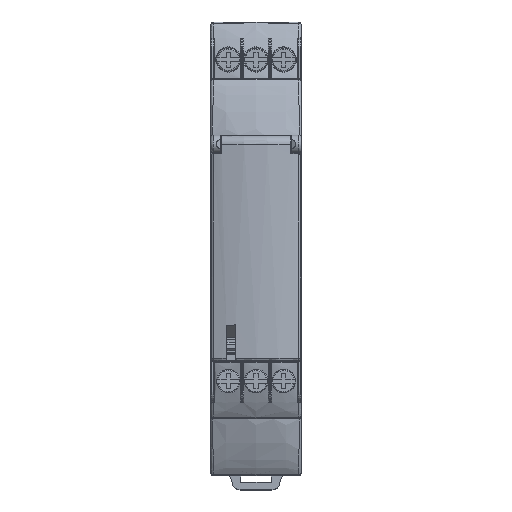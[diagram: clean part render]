
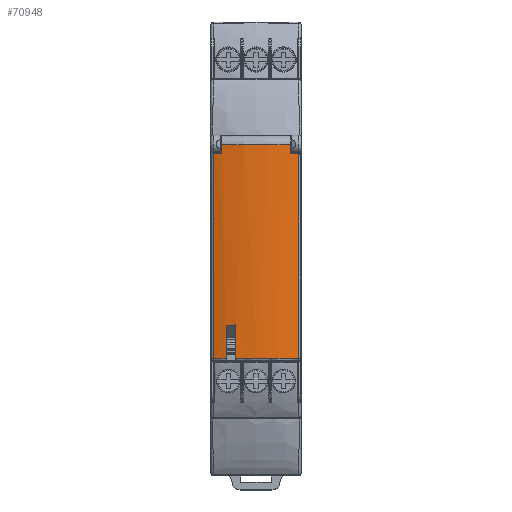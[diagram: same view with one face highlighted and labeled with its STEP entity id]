
A CAD part, top view. The second image highlights one B-rep face of the part: STEP entity #70948.
In plain terms, the highlighted cylindrical face has radius 30 mm (diameter 60 mm), a partial arc.
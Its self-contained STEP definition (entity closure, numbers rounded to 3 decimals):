
#69214=CARTESIAN_POINT('',(-4.05,-21.85,6.225));
#69216=CARTESIAN_POINT('',(0.,-21.85,-23.5));
#69217=DIRECTION('',(0.,1.,0.));
#69218=DIRECTION('',(-0.135,0.,0.991));
#69219=AXIS2_PLACEMENT_3D('',#69216,#69217,#69218);
#69441=DIRECTION('',(0.,-1.,0.));
#69442=VECTOR('',#69441,1.8);
#69443=CARTESIAN_POINT('',(6.86,20.55,5.705));
#69444=LINE('',#69443,#69442);
#69445=CARTESIAN_POINT('',(8.049,18.75,5.4));
#69446=CARTESIAN_POINT('',(8.197,18.739,5.359));
#69447=CARTESIAN_POINT('',(8.344,18.728,5.317));
#69448=CARTESIAN_POINT('',(8.492,18.716,5.273));
#69450=DIRECTION('',(0.,-1.,0.));
#69451=VECTOR('',#69450,40.566);
#69452=CARTESIAN_POINT('',(8.492,18.716,5.273));
#69453=LINE('',#69452,#69451);
#69454=DIRECTION('',(0.,1.,0.));
#69455=VECTOR('',#69454,6.641);
#69456=CARTESIAN_POINT('',(-4.05,-21.85,6.225));
#69457=LINE('',#69456,#69455);
#69458=CARTESIAN_POINT('',(-4.05,-15.209,6.225));
#69459=CARTESIAN_POINT('',(-4.654,-15.256,
6.143));
#69460=CARTESIAN_POINT('',(-5.254,-15.314,
6.043));
#69461=CARTESIAN_POINT('',(-5.85,-15.382,5.924));
#69463=DIRECTION('',(0.,-1.,0.));
#69464=VECTOR('',#69463,6.468);
#69465=CARTESIAN_POINT('',(-5.85,-15.382,5.924));
#69466=LINE('',#69465,#69464);
#69467=DIRECTION('',(0.,1.,0.));
#69468=VECTOR('',#69467,40.566);
#69469=CARTESIAN_POINT('',(-8.492,-21.85,5.273));
#69470=LINE('',#69469,#69468);
#69471=DIRECTION('',(0.,1.,0.));
#69472=VECTOR('',#69471,1.8);
#69473=CARTESIAN_POINT('',(-6.86,18.75,5.705));
#69474=LINE('',#69473,#69472);
#69486=CARTESIAN_POINT('',(0.,20.55,-23.5));
#69487=DIRECTION('',(0.,-1.,0.));
#69488=DIRECTION('',(0.229,0.,0.974));
#69489=AXIS2_PLACEMENT_3D('',#69486,#69487,#69488);
#69558=CARTESIAN_POINT('',(0.,18.75,-23.5));
#69559=DIRECTION('',(0.,-1.,0.));
#69560=DIRECTION('',(-0.229,0.,0.974));
#69561=AXIS2_PLACEMENT_3D('',#69558,#69559,#69560);
#69575=CARTESIAN_POINT('',(-8.049,18.75,5.4));
#69576=CARTESIAN_POINT('',(-8.197,18.739,
5.359));
#69577=CARTESIAN_POINT('',(-8.344,18.728,
5.317));
#69578=CARTESIAN_POINT('',(-8.492,18.716,
5.273));
#69605=CARTESIAN_POINT('',(0.,-21.85,-23.5));
#69606=DIRECTION('',(0.,1.,0.));
#69607=DIRECTION('',(-0.283,0.,0.959));
#69608=AXIS2_PLACEMENT_3D('',#69605,#69606,#69607);
#69954=CARTESIAN_POINT('',(0.,18.75,-23.5));
#69955=DIRECTION('',(0.,-1.,0.));
#69956=DIRECTION('',(0.268,0.,0.963));
#69957=AXIS2_PLACEMENT_3D('',#69954,#69955,#69956);
#70307=VERTEX_POINT('',#69214);
#70308=CARTESIAN_POINT('',(8.492,-21.85,5.273));
#70309=VERTEX_POINT('',#70308);
#70320=CARTESIAN_POINT('',(-4.05,-15.209,6.225));
#70321=VERTEX_POINT('',#70320);
#70430=CARTESIAN_POINT('',(8.492,18.716,5.273));
#70431=VERTEX_POINT('',#70430);
#70432=VERTEX_POINT('',#69445);
#70435=CARTESIAN_POINT('',(6.86,20.55,5.705));
#70436=CARTESIAN_POINT('',(-6.86,20.55,5.705));
#70437=VERTEX_POINT('',#70435);
#70438=VERTEX_POINT('',#70436);
#70439=CARTESIAN_POINT('',(6.86,18.75,5.705));
#70440=VERTEX_POINT('',#70439);
#70441=VERTEX_POINT('',#69461);
#70442=CARTESIAN_POINT('',(-5.85,-21.85,5.924));
#70443=VERTEX_POINT('',#70442);
#70444=CARTESIAN_POINT('',(-8.492,-21.85,5.273));
#70445=VERTEX_POINT('',#70444);
#70446=CARTESIAN_POINT('',(-8.492,18.716,
5.273));
#70447=VERTEX_POINT('',#70446);
#70448=VERTEX_POINT('',#69575);
#70449=CARTESIAN_POINT('',(-6.86,18.75,5.705));
#70450=VERTEX_POINT('',#70449);
#70917=CARTESIAN_POINT('',(0.,22.35,-23.5));
#70918=DIRECTION('',(0.,1.,0.));
#70919=DIRECTION('',(1.,0.,0.));
#70920=AXIS2_PLACEMENT_3D('',#70917,#70918,#70919);
#70921=CYLINDRICAL_SURFACE('',#70920,30.);
#70923=ORIENTED_EDGE('',*,*,#70922,.F.);
#70925=ORIENTED_EDGE('',*,*,#70924,.T.);
#70927=ORIENTED_EDGE('',*,*,#70926,.F.);
#70928=ORIENTED_EDGE('',*,*,#70906,.T.);
#70929=ORIENTED_EDGE('',*,*,#70880,.T.);
#70930=ORIENTED_EDGE('',*,*,#70629,.F.);
#70931=ORIENTED_EDGE('',*,*,#70655,.T.);
#70933=ORIENTED_EDGE('',*,*,#70932,.T.);
#70935=ORIENTED_EDGE('',*,*,#70934,.T.);
#70937=ORIENTED_EDGE('',*,*,#70936,.F.);
#70939=ORIENTED_EDGE('',*,*,#70938,.T.);
#70941=ORIENTED_EDGE('',*,*,#70940,.F.);
#70943=ORIENTED_EDGE('',*,*,#70942,.F.);
#70945=ORIENTED_EDGE('',*,*,#70944,.T.);
#70946=EDGE_LOOP('',(#70923,#70925,#70927,#70928,#70929,#70930,#70931,#70933,
#70935,#70937,#70939,#70941,#70943,#70945));
#70947=FACE_OUTER_BOUND('',#70946,.F.);
#69220=CIRCLE('',#69219,30.);
#69449=B_SPLINE_CURVE_WITH_KNOTS('',3,(#69445,#69446,#69447,#69448),
.UNSPECIFIED.,.F.,.F.,(4,4),(0.,1.),.UNSPECIFIED.);
#69462=B_SPLINE_CURVE_WITH_KNOTS('',3,(#69458,#69459,#69460,#69461),
.UNSPECIFIED.,.F.,.F.,(4,4),(0.,1.),.UNSPECIFIED.);
#69490=CIRCLE('',#69489,30.);
#69562=CIRCLE('',#69561,30.);
#69579=B_SPLINE_CURVE_WITH_KNOTS('',3,(#69575,#69576,#69577,#69578),
.UNSPECIFIED.,.F.,.F.,(4,4),(0.,1.),.UNSPECIFIED.);
#69609=CIRCLE('',#69608,30.);
#69958=CIRCLE('',#69957,30.);
#70629=EDGE_CURVE('',#70307,#70309,#69220,.T.);
#70655=EDGE_CURVE('',#70307,#70321,#69457,.T.);
#70880=EDGE_CURVE('',#70431,#70309,#69453,.T.);
#70906=EDGE_CURVE('',#70432,#70431,#69449,.T.);
#70922=EDGE_CURVE('',#70437,#70438,#69490,.T.);
#70924=EDGE_CURVE('',#70437,#70440,#69444,.T.);
#70926=EDGE_CURVE('',#70432,#70440,#69958,.T.);
#70932=EDGE_CURVE('',#70321,#70441,#69462,.T.);
#70934=EDGE_CURVE('',#70441,#70443,#69466,.T.);
#70936=EDGE_CURVE('',#70445,#70443,#69609,.T.);
#70938=EDGE_CURVE('',#70445,#70447,#69470,.T.);
#70940=EDGE_CURVE('',#70448,#70447,#69579,.T.);
#70942=EDGE_CURVE('',#70450,#70448,#69562,.T.);
#70944=EDGE_CURVE('',#70450,#70438,#69474,.T.);
#70948=ADVANCED_FACE('',(#70947),#70921,.T.);
